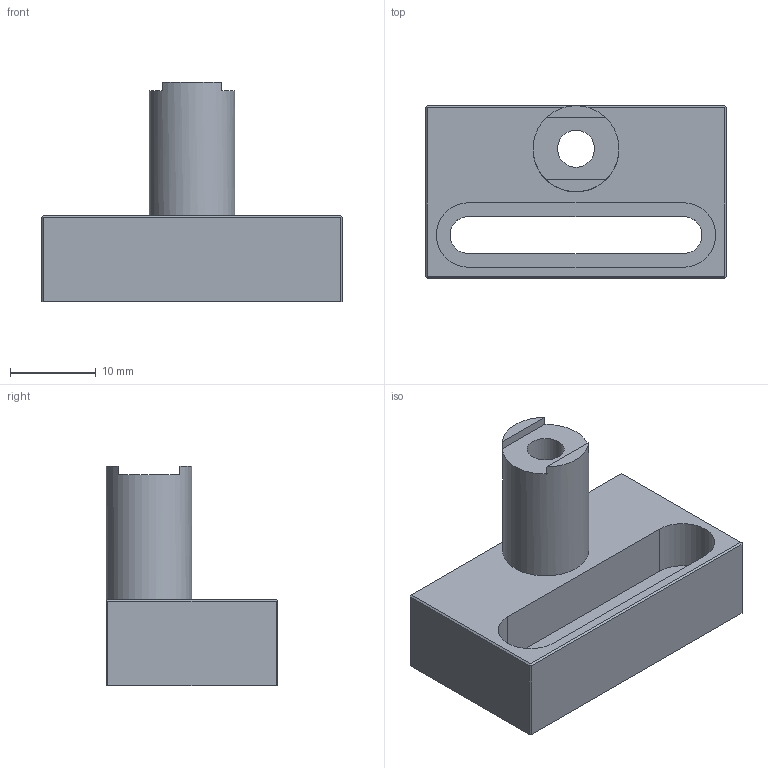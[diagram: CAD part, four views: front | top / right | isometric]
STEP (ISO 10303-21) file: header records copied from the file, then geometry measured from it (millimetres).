
FILE_DESCRIPTION(/* description */ (''),/* implementation_level */ '2;1');
FILE_NAME(/* name */ '',/* time_stamp */ '2025-12-08T17:41:11+08:00',/* author */ ('Q'),/* organization */ (''),/* preprocessor_version */ 'ST-DEVELOPER v20',/* originating_system */ 'Autodesk Inventor 2025',/* authorisation */ '');
FILE_SCHEMA (('AUTOMOTIVE_DESIGN { 1 0 10303 214 3 1 1 }'));
Length unit declared in the file: millimetre
Products named in the file (1): 横向移动底座
Bounding box: 35 x 20 x 25.5 mm (x, y, z)
Volume: 5351.8 mm3; surface area: 3911.6 mm2
Topology: 1 solids, 1 shells, 33 faces, 86 edges, 57 vertices
Faces by surface type: plane 26, cylinder 7
Full cylindrical faces by diameter (mm): 4.3 x1, 7.5 x1, 10 x1
Entity records: 1064 total; most frequent: CARTESIAN_POINT 177, DIRECTION 175, ORIENTED_EDGE 172, EDGE_CURVE 86, LINE 65, VECTOR 65, VERTEX_POINT 57, AXIS2_PLACEMENT_3D 55
